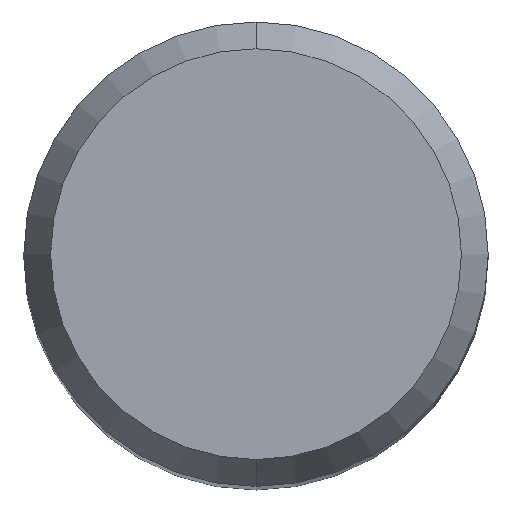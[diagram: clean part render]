
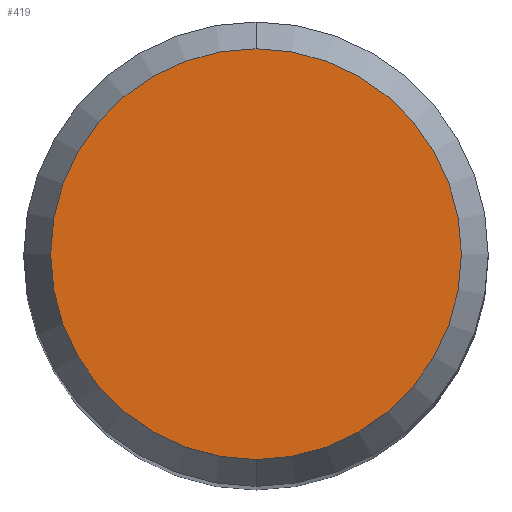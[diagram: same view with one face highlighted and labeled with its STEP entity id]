
A CAD part, top view. The second image highlights one B-rep face of the part: STEP entity #419.
In plain terms, the highlighted planar face has unit normal (0, 0, 1).
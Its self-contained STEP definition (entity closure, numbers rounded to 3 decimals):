
#257=EDGE_CURVE('',#369,#405,#553,.T.);
#369=VERTEX_POINT('',#680);
#379=EDGE_CURVE('',#405,#369,#691,.T.);
#405=VERTEX_POINT('',#721);
#419=ADVANCED_FACE('',(#736),#737,.T.);
#553=CIRCLE('',#1020,3.538);
#680=CARTESIAN_POINT('',(0.,-3.538,0.0));
#691=CIRCLE('',#1271,3.538);
#721=CARTESIAN_POINT('',(0.0,3.538,0.0));
#736=FACE_OUTER_BOUND('',#1355,.T.);
#737=PLANE('',#1356);
#1020=AXIS2_PLACEMENT_3D('',#1488,#1489,#1490);
#1271=AXIS2_PLACEMENT_3D('',#1651,#1652,#1653);
#1355=EDGE_LOOP('',(#1703,#1704));
#1356=AXIS2_PLACEMENT_3D('',#1705,#1706,#1707);
#1488=CARTESIAN_POINT('',(0.0,0.0,0.0));
#1489=DIRECTION('',(0.0,0.0,-1.0));
#1490=DIRECTION('',(0.0,1.0,0.0));
#1651=CARTESIAN_POINT('',(0.0,0.0,0.0));
#1652=DIRECTION('',(0.0,0.0,-1.0));
#1653=DIRECTION('',(0.0,1.0,0.0));
#1703=ORIENTED_EDGE('',*,*,#379,.F.);
#1704=ORIENTED_EDGE('',*,*,#257,.F.);
#1705=CARTESIAN_POINT('',(0.0,1.769,0.0));
#1706=DIRECTION('',(-0.0,0.0,1.0));
#1707=DIRECTION('',(0.0,-1.0,0.0));
